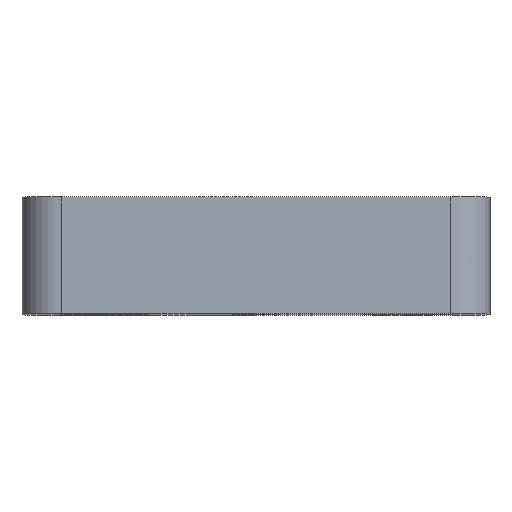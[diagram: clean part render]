
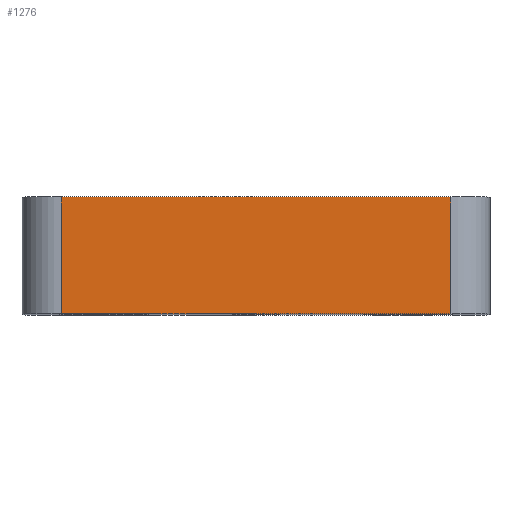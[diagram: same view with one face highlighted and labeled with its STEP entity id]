
A CAD part, top view. The second image highlights one B-rep face of the part: STEP entity #1276.
In plain terms, the highlighted planar face has unit normal (0, 0, 1).
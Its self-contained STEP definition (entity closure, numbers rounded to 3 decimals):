
#1276 = ADVANCED_FACE( '', ( #3287 ), #3288, .T. );
#3287 = FACE_OUTER_BOUND( '', #6105, .T. );
#3288 = PLANE( '', #6106 );
#6105 = EDGE_LOOP( '', ( #10825, #10826, #10827, #10828 ) );
#6106 = AXIS2_PLACEMENT_3D( '', #10829, #10830, #10831 );
#10825 = ORIENTED_EDGE( '', *, *, #20390, .F. );
#10826 = ORIENTED_EDGE( '', *, *, #20391, .T. );
#10827 = ORIENTED_EDGE( '', *, *, #20257, .T. );
#10828 = ORIENTED_EDGE( '', *, *, #19323, .T. );
#10829 = CARTESIAN_POINT( '', ( 19.05, 9.525, 25.4 ) );
#10830 = DIRECTION( '', ( 0., 0., 1. ) );
#10831 = DIRECTION( '', ( 1., 0., 0. ) );
#19323 = EDGE_CURVE( '', #22354, #22358, #22360, .T. );
#20257 = EDGE_CURVE( '', #23994, #22354, #23995, .T. );
#20390 = EDGE_CURVE( '', #24200, #22358, #24201, .T. );
#20391 = EDGE_CURVE( '', #24200, #23994, #24202, .F. );
#22354 = VERTEX_POINT( '', #27123 );
#22358 = VERTEX_POINT( '', #27128 );
#22360 = LINE( '', #27130, #27131 );
#23994 = VERTEX_POINT( '', #32717 );
#23995 = LINE( '', #32718, #32719 );
#24200 = VERTEX_POINT( '', #33340 );
#24201 = LINE( '', #33341, #33342 );
#24202 = LINE( '', #33343, #33344 );
#27123 = CARTESIAN_POINT( '', ( -15.875, 9.525, 25.4 ) );
#27128 = CARTESIAN_POINT( '', ( -15.875, 0., 25.4 ) );
#27130 = CARTESIAN_POINT( '', ( -15.875, 9.525, 25.4 ) );
#27131 = VECTOR( '', #40537, 1000. );
#32717 = CARTESIAN_POINT( '', ( 15.875, 9.525, 25.4 ) );
#32718 = CARTESIAN_POINT( '', ( 19.05, 9.525, 25.4 ) );
#32719 = VECTOR( '', #40807, 1000. );
#33340 = CARTESIAN_POINT( '', ( 15.875, 0., 25.4 ) );
#33341 = CARTESIAN_POINT( '', ( 19.05, 0., 25.4 ) );
#33342 = VECTOR( '', #40852, 1000. );
#33343 = CARTESIAN_POINT( '', ( 15.875, 9.525, 25.4 ) );
#33344 = VECTOR( '', #40853, 1000. );
#40537 = DIRECTION( '', ( 0., -1., 0. ) );
#40807 = DIRECTION( '', ( -1., 0., 0. ) );
#40852 = DIRECTION( '', ( -1., 0., 0. ) );
#40853 = DIRECTION( '', ( 0., -1., 0. ) );
